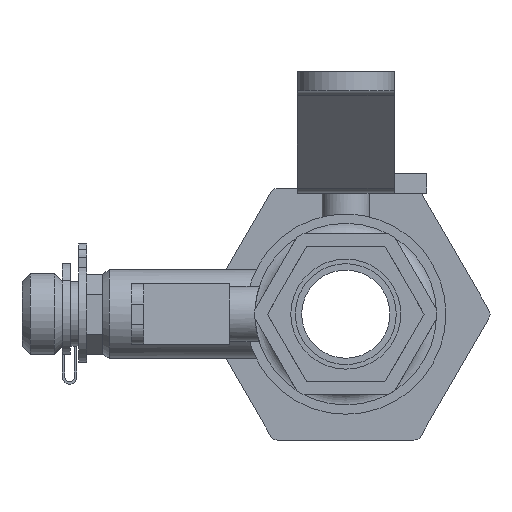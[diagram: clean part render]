
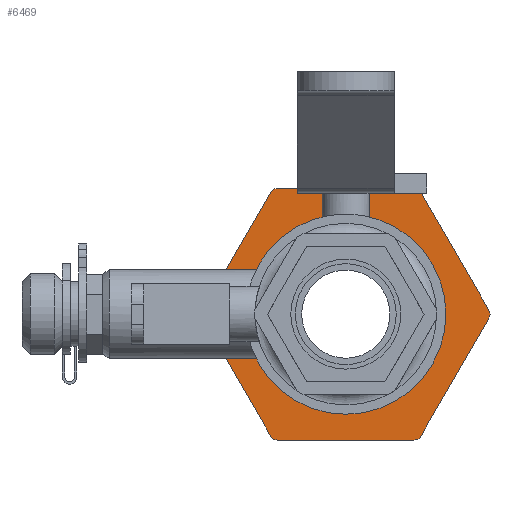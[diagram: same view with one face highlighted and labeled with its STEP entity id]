
A CAD part, left-side view. The second image highlights one B-rep face of the part: STEP entity #6469.
In plain terms, the highlighted planar face has unit normal (-1, 0, 0) as drawn and (1, 0, 0) by its records, which use the part's own axes.
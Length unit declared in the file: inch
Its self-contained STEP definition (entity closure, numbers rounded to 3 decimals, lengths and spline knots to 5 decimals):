
#98=FACE_BOUND('',#774,.T.);
#167=PLANE('',#7031);
#428=FACE_OUTER_BOUND('',#773,.T.);
#773=EDGE_LOOP('',(#4326,#4327,#4328,#4329,#4330,#4331,#4332,#4333,#4334,
#4335,#4336,#4337));
#774=EDGE_LOOP('',(#4338,#4339,#4340,#4341,#4342,#4343,#4344,#4345,#4346,
#4347,#4348,#4349));
#1137=LINE('',#9547,#1747);
#1142=LINE('',#9565,#1752);
#1149=LINE('',#9583,#1759);
#1154=LINE('',#9601,#1764);
#1160=LINE('',#9616,#1770);
#1161=LINE('',#9619,#1771);
#1186=LINE('',#9698,#1796);
#1189=LINE('',#9706,#1799);
#1192=LINE('',#9714,#1802);
#1195=LINE('',#9722,#1805);
#1198=LINE('',#9730,#1808);
#1201=LINE('',#9737,#1811);
#1747=VECTOR('',#7634,0.3937);
#1752=VECTOR('',#7653,0.3937);
#1759=VECTOR('',#7670,0.3937);
#1764=VECTOR('',#7689,0.3937);
#1770=VECTOR('',#7703,0.3937);
#1771=VECTOR('',#7706,0.3937);
#1796=VECTOR('',#7783,0.3937);
#1799=VECTOR('',#7792,0.3937);
#1802=VECTOR('',#7801,0.3937);
#1805=VECTOR('',#7810,0.3937);
#1808=VECTOR('',#7819,0.3937);
#1811=VECTOR('',#7828,0.3937);
#2350=CIRCLE('',#6959,0.025);
#2354=CIRCLE('',#6967,0.025);
#2358=CIRCLE('',#6974,0.025);
#2360=CIRCLE('',#6979,0.025);
#2364=CIRCLE('',#6986,0.025);
#2366=CIRCLE('',#6991,0.025);
#2380=CIRCLE('',#7014,0.05);
#2381=CIRCLE('',#7017,0.05);
#2382=CIRCLE('',#7020,0.05);
#2383=CIRCLE('',#7023,0.05);
#2384=CIRCLE('',#7026,0.05);
#2385=CIRCLE('',#7029,0.05);
#2639=VERTEX_POINT('',#9522);
#2640=VERTEX_POINT('',#9523);
#2649=VERTEX_POINT('',#9546);
#2651=VERTEX_POINT('',#9552);
#2655=VERTEX_POINT('',#9564);
#2657=VERTEX_POINT('',#9570);
#2661=VERTEX_POINT('',#9582);
#2663=VERTEX_POINT('',#9588);
#2667=VERTEX_POINT('',#9600);
#2669=VERTEX_POINT('',#9606);
#2672=VERTEX_POINT('',#9614);
#2673=VERTEX_POINT('',#9618);
#2699=VERTEX_POINT('',#9691);
#2700=VERTEX_POINT('',#9693);
#2701=VERTEX_POINT('',#9697);
#2702=VERTEX_POINT('',#9701);
#2703=VERTEX_POINT('',#9705);
#2704=VERTEX_POINT('',#9709);
#2705=VERTEX_POINT('',#9713);
#2706=VERTEX_POINT('',#9717);
#2707=VERTEX_POINT('',#9721);
#2708=VERTEX_POINT('',#9725);
#2709=VERTEX_POINT('',#9729);
#2710=VERTEX_POINT('',#9733);
#3244=EDGE_CURVE('',#2639,#2640,#2350,.T.);
#3255=EDGE_CURVE('',#2640,#2649,#1137,.T.);
#3258=EDGE_CURVE('',#2649,#2651,#2354,.T.);
#3264=EDGE_CURVE('',#2655,#2639,#1142,.T.);
#3267=EDGE_CURVE('',#2657,#2655,#2358,.T.);
#3273=EDGE_CURVE('',#2651,#2661,#1149,.T.);
#3276=EDGE_CURVE('',#2661,#2663,#2360,.T.);
#3282=EDGE_CURVE('',#2667,#2657,#1154,.T.);
#3285=EDGE_CURVE('',#2669,#2667,#2364,.T.);
#3290=EDGE_CURVE('',#2663,#2672,#1160,.T.);
#3291=EDGE_CURVE('',#2673,#2669,#1161,.T.);
#3294=EDGE_CURVE('',#2672,#2673,#2366,.T.);
#3329=EDGE_CURVE('',#2700,#2699,#2380,.T.);
#3331=EDGE_CURVE('',#2701,#2700,#1186,.T.);
#3333=EDGE_CURVE('',#2702,#2701,#2381,.T.);
#3335=EDGE_CURVE('',#2703,#2702,#1189,.T.);
#3337=EDGE_CURVE('',#2704,#2703,#2382,.T.);
#3339=EDGE_CURVE('',#2705,#2704,#1192,.T.);
#3341=EDGE_CURVE('',#2706,#2705,#2383,.T.);
#3343=EDGE_CURVE('',#2707,#2706,#1195,.T.);
#3345=EDGE_CURVE('',#2708,#2707,#2384,.T.);
#3347=EDGE_CURVE('',#2709,#2708,#1198,.T.);
#3349=EDGE_CURVE('',#2710,#2709,#2385,.T.);
#3351=EDGE_CURVE('',#2699,#2710,#1201,.T.);
#4326=ORIENTED_EDGE('',*,*,#3351,.T.);
#4327=ORIENTED_EDGE('',*,*,#3349,.T.);
#4328=ORIENTED_EDGE('',*,*,#3347,.T.);
#4329=ORIENTED_EDGE('',*,*,#3345,.T.);
#4330=ORIENTED_EDGE('',*,*,#3343,.T.);
#4331=ORIENTED_EDGE('',*,*,#3341,.T.);
#4332=ORIENTED_EDGE('',*,*,#3339,.T.);
#4333=ORIENTED_EDGE('',*,*,#3337,.T.);
#4334=ORIENTED_EDGE('',*,*,#3335,.T.);
#4335=ORIENTED_EDGE('',*,*,#3333,.T.);
#4336=ORIENTED_EDGE('',*,*,#3331,.T.);
#4337=ORIENTED_EDGE('',*,*,#3329,.T.);
#4338=ORIENTED_EDGE('',*,*,#3291,.T.);
#4339=ORIENTED_EDGE('',*,*,#3285,.T.);
#4340=ORIENTED_EDGE('',*,*,#3282,.T.);
#4341=ORIENTED_EDGE('',*,*,#3267,.T.);
#4342=ORIENTED_EDGE('',*,*,#3264,.T.);
#4343=ORIENTED_EDGE('',*,*,#3244,.T.);
#4344=ORIENTED_EDGE('',*,*,#3255,.T.);
#4345=ORIENTED_EDGE('',*,*,#3258,.T.);
#4346=ORIENTED_EDGE('',*,*,#3273,.T.);
#4347=ORIENTED_EDGE('',*,*,#3276,.T.);
#4348=ORIENTED_EDGE('',*,*,#3290,.T.);
#4349=ORIENTED_EDGE('',*,*,#3294,.T.);
#6469=ADVANCED_FACE('',(#428,#98),#167,.T.);
#6959=AXIS2_PLACEMENT_3D('',#9524,#7613,#7614);
#6967=AXIS2_PLACEMENT_3D('',#9553,#7639,#7640);
#6974=AXIS2_PLACEMENT_3D('',#9571,#7658,#7659);
#6979=AXIS2_PLACEMENT_3D('',#9589,#7675,#7676);
#6986=AXIS2_PLACEMENT_3D('',#9607,#7694,#7695);
#6991=AXIS2_PLACEMENT_3D('',#9624,#7711,#7712);
#7014=AXIS2_PLACEMENT_3D('',#9694,#7778,#7779);
#7017=AXIS2_PLACEMENT_3D('',#9702,#7787,#7788);
#7020=AXIS2_PLACEMENT_3D('',#9710,#7796,#7797);
#7023=AXIS2_PLACEMENT_3D('',#9718,#7805,#7806);
#7026=AXIS2_PLACEMENT_3D('',#9726,#7814,#7815);
#7029=AXIS2_PLACEMENT_3D('',#9734,#7823,#7824);
#7031=AXIS2_PLACEMENT_3D('',#9738,#7829,#7830);
#7613=DIRECTION('center_axis',(-1.,0.,0.));
#7614=DIRECTION('ref_axis',(0.,-0.5,0.866));
#7634=DIRECTION('',(0.,-0.866,-0.5));
#7639=DIRECTION('center_axis',(-1.,0.,0.));
#7640=DIRECTION('ref_axis',(0.,0.5,0.866));
#7653=DIRECTION('',(0.,0.,-1.));
#7658=DIRECTION('center_axis',(-1.,0.,0.));
#7659=DIRECTION('ref_axis',(0.,-1.,0.));
#7670=DIRECTION('',(0.,-0.866,0.5));
#7675=DIRECTION('center_axis',(-1.,0.,0.));
#7676=DIRECTION('ref_axis',(0.,1.,0.));
#7689=DIRECTION('',(0.,0.866,-0.5));
#7694=DIRECTION('center_axis',(-1.,0.,0.));
#7695=DIRECTION('ref_axis',(0.,-0.5,-0.866));
#7703=DIRECTION('',(0.,0.,1.));
#7706=DIRECTION('',(0.,0.866,0.5));
#7711=DIRECTION('center_axis',(-1.,0.,0.));
#7712=DIRECTION('ref_axis',(0.,0.5,-0.866));
#7778=DIRECTION('center_axis',(1.,0.,0.));
#7779=DIRECTION('ref_axis',(0.,0.,1.));
#7783=DIRECTION('',(0.,1.,0.));
#7787=DIRECTION('center_axis',(1.,0.,0.));
#7788=DIRECTION('ref_axis',(0.,0.866,0.5));
#7792=DIRECTION('',(0.,0.5,-0.866));
#7796=DIRECTION('center_axis',(1.,0.,0.));
#7797=DIRECTION('ref_axis',(0.,0.866,-0.5));
#7801=DIRECTION('',(0.,-0.5,-0.866));
#7805=DIRECTION('center_axis',(1.,0.,0.));
#7806=DIRECTION('ref_axis',(0.,0.,-1.));
#7810=DIRECTION('',(0.,-1.,0.));
#7814=DIRECTION('center_axis',(1.,0.,0.));
#7815=DIRECTION('ref_axis',(0.,-0.866,-0.5));
#7819=DIRECTION('',(0.,-0.5,0.866));
#7823=DIRECTION('center_axis',(1.,0.,0.));
#7824=DIRECTION('ref_axis',(0.,-0.866,0.5));
#7828=DIRECTION('',(0.,0.5,0.866));
#7829=DIRECTION('center_axis',(1.,0.,0.));
#7830=DIRECTION('ref_axis',(0.,0.,-1.));
#9522=CARTESIAN_POINT('',(0.26167,0.525,-0.28868));
#9523=CARTESIAN_POINT('',(0.26167,0.5125,-0.31033));
#9524=CARTESIAN_POINT('Origin',(0.26167,0.5,-0.28868));
#9546=CARTESIAN_POINT('',(0.26167,0.0125,-0.599));
#9547=CARTESIAN_POINT('',(0.26167,0.3875,-0.38249));
#9552=CARTESIAN_POINT('',(0.26167,-0.0125,-0.599));
#9553=CARTESIAN_POINT('Origin',(0.26167,0.,
-0.57735));
#9564=CARTESIAN_POINT('',(0.26167,0.525,0.28868));
#9565=CARTESIAN_POINT('',(0.26167,0.525,0.14434));
#9570=CARTESIAN_POINT('',(0.26167,0.5125,0.31033));
#9571=CARTESIAN_POINT('Origin',(0.26167,0.5,0.28868));
#9582=CARTESIAN_POINT('',(0.26167,-0.5125,-0.31033));
#9583=CARTESIAN_POINT('',(0.26167,-0.1375,-0.52683));
#9588=CARTESIAN_POINT('',(0.26167,-0.525,-0.28868));
#9589=CARTESIAN_POINT('Origin',(0.26167,-0.5,-0.28868));
#9600=CARTESIAN_POINT('',(0.26167,0.0125,0.599));
#9601=CARTESIAN_POINT('',(0.26167,0.1375,0.52683));
#9606=CARTESIAN_POINT('',(0.26167,-0.0125,0.599));
#9607=CARTESIAN_POINT('Origin',(0.26167,0.,
0.57735));
#9614=CARTESIAN_POINT('',(0.26167,-0.525,0.28868));
#9616=CARTESIAN_POINT('',(0.26167,-0.525,-0.14434));
#9618=CARTESIAN_POINT('',(0.26167,-0.5125,0.31033));
#9619=CARTESIAN_POINT('',(0.26167,-0.3875,0.38249));
#9624=CARTESIAN_POINT('Origin',(0.26167,-0.5,0.28868));
#9691=CARTESIAN_POINT('',(0.26167,0.46477,-0.755));
#9693=CARTESIAN_POINT('',(0.26167,0.42147,-0.78));
#9694=CARTESIAN_POINT('Origin',(0.26167,0.42147,-0.73));
#9697=CARTESIAN_POINT('',(0.26167,-0.42147,-0.78));
#9698=CARTESIAN_POINT('',(0.26167,0.42147,-0.78));
#9701=CARTESIAN_POINT('',(0.26167,-0.46477,-0.755));
#9702=CARTESIAN_POINT('Origin',(0.26167,-0.42147,-0.73));
#9705=CARTESIAN_POINT('',(0.26167,-0.88623,-0.025));
#9706=CARTESIAN_POINT('',(0.26167,-0.46477,-0.755));
#9709=CARTESIAN_POINT('',(0.26167,-0.88623,0.025));
#9710=CARTESIAN_POINT('Origin',(0.26167,-0.84293,0.));
#9713=CARTESIAN_POINT('',(0.26167,-0.46477,0.755));
#9714=CARTESIAN_POINT('',(0.26167,-0.88623,0.025));
#9717=CARTESIAN_POINT('',(0.26167,-0.42147,0.78));
#9718=CARTESIAN_POINT('Origin',(0.26167,-0.42147,0.73));
#9721=CARTESIAN_POINT('',(0.26167,0.42147,0.78));
#9722=CARTESIAN_POINT('',(0.26167,-0.42147,0.78));
#9725=CARTESIAN_POINT('',(0.26167,0.46477,0.755));
#9726=CARTESIAN_POINT('Origin',(0.26167,0.42147,0.73));
#9729=CARTESIAN_POINT('',(0.26167,0.88623,0.025));
#9730=CARTESIAN_POINT('',(0.26167,0.46477,0.755));
#9733=CARTESIAN_POINT('',(0.26167,0.88623,-0.025));
#9734=CARTESIAN_POINT('Origin',(0.26167,0.84293,0.));
#9737=CARTESIAN_POINT('',(0.26167,0.88623,-0.025));
#9738=CARTESIAN_POINT('Origin',(0.26167,0.,
0.));
